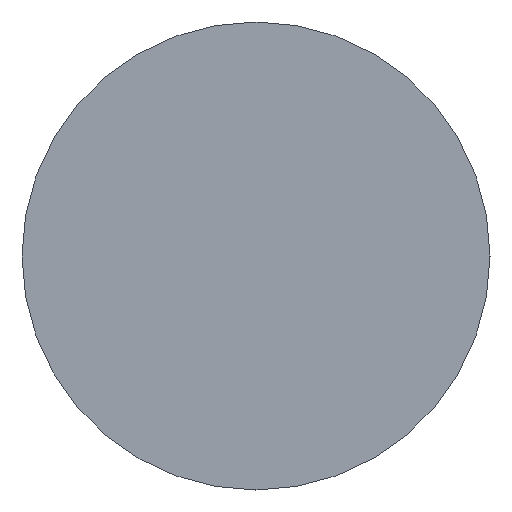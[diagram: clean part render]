
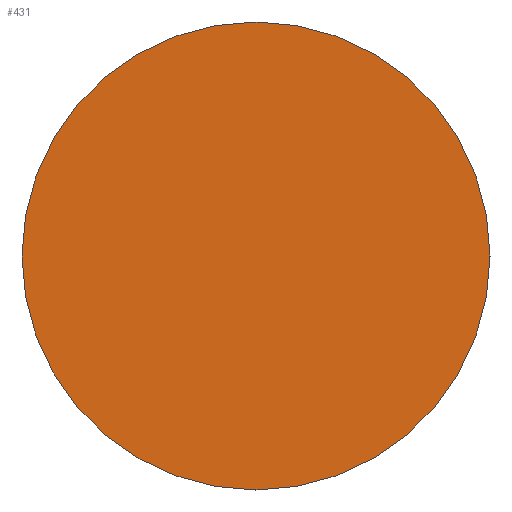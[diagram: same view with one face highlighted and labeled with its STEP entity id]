
A CAD part, left-side view. The second image highlights one B-rep face of the part: STEP entity #431.
In plain terms, the highlighted planar face has unit normal (-1, 0, 0).
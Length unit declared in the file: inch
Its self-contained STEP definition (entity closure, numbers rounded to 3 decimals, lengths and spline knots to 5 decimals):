
#32 = AXIS2_PLACEMENT_3D ( 'NONE', #339, #110, #350 ) ;
#95 = PLANE ( 'NONE',  #388 ) ;
#110 = DIRECTION ( 'NONE',  ( -1., 0., 0. ) ) ;
#117 = VERTEX_POINT ( 'NONE', #567 ) ;
#120 = ORIENTED_EDGE ( 'NONE', *, *, #208, .T. ) ;
#121 = CARTESIAN_POINT ( 'NONE',  ( -6., 0., 0.1875 ) ) ;
#208 = EDGE_CURVE ( 'NONE', #117, #603, #238, .T. ) ;
#238 = CIRCLE ( 'NONE', #597, 0.1875 ) ;
#294 = CARTESIAN_POINT ( 'NONE',  ( -6., 0., 0. ) ) ;
#299 = EDGE_CURVE ( 'NONE', #603, #117, #513, .T. ) ;
#300 = ORIENTED_EDGE ( 'NONE', *, *, #299, .T. ) ;
#339 = CARTESIAN_POINT ( 'NONE',  ( -6., 0., 0. ) ) ;
#350 = DIRECTION ( 'NONE',  ( 0., 0., 1. ) ) ;
#383 = DIRECTION ( 'NONE',  ( 1., 0., 0. ) ) ;
#388 = AXIS2_PLACEMENT_3D ( 'NONE', #579, #383, #478 ) ;
#431 = ADVANCED_FACE ( 'NONE', ( #528 ), #95, .F. ) ;
#478 = DIRECTION ( 'NONE',  ( 0., 0., -1. ) ) ;
#513 = CIRCLE ( 'NONE', #32, 0.1875 ) ;
#528 = FACE_OUTER_BOUND ( 'NONE', #595, .T. ) ;
#543 = DIRECTION ( 'NONE',  ( -1., 0., 0. ) ) ;
#552 = DIRECTION ( 'NONE',  ( 0., 0., 1. ) ) ;
#567 = CARTESIAN_POINT ( 'NONE',  ( -6., 0., -0.1875 ) ) ;
#579 = CARTESIAN_POINT ( 'NONE',  ( -6., 0.1875, 0. ) ) ;
#595 = EDGE_LOOP ( 'NONE', ( #300, #120 ) ) ;
#597 = AXIS2_PLACEMENT_3D ( 'NONE', #294, #543, #552 ) ;
#603 = VERTEX_POINT ( 'NONE', #121 ) ;
